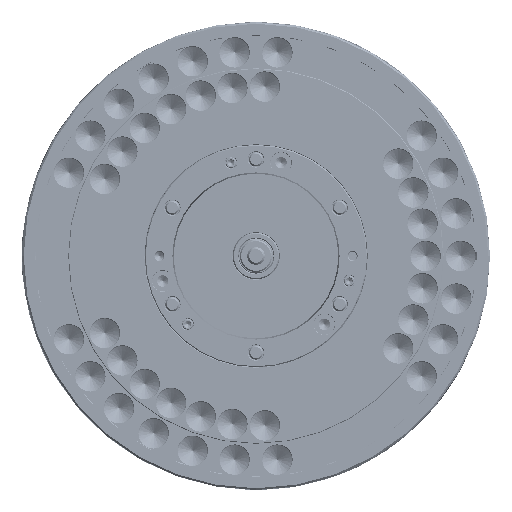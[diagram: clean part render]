
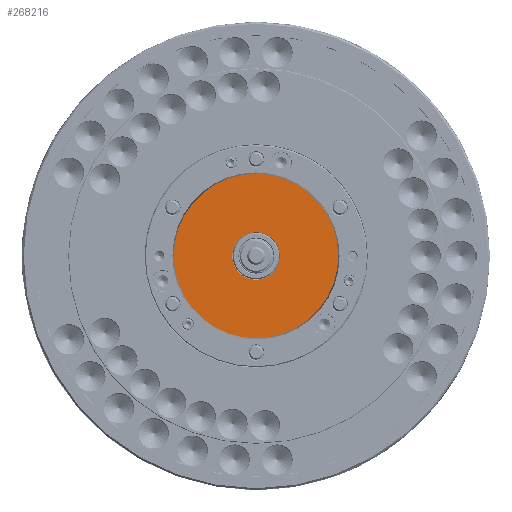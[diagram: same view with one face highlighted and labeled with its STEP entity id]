
A CAD part, left-side view. The second image highlights one B-rep face of the part: STEP entity #268216.
In plain terms, the highlighted planar face has unit normal (-1, 0, 0).
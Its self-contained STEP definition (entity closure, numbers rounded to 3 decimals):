
#3463 = VERTEX_POINT ( 'NONE', #20137 ) ;
#3970 = CARTESIAN_POINT ( 'NONE',  ( -145., 0., 0. ) ) ;
#15808 = DIRECTION ( 'NONE',  ( 0., 0., 1. ) ) ;
#19637 = DIRECTION ( 'NONE',  ( 0., 0., 1. ) ) ;
#20137 = CARTESIAN_POINT ( 'NONE',  ( -145., 0., 140.7 ) ) ;
#28764 = EDGE_CURVE ( 'NONE', #79490, #300440, #200843, .T. ) ;
#31823 = PLANE ( 'NONE',  #189696 ) ;
#35583 = DIRECTION ( 'NONE',  ( 0., 0., 1. ) ) ;
#40766 = AXIS2_PLACEMENT_3D ( 'NONE', #45808, #70819, #322844 ) ;
#45808 = CARTESIAN_POINT ( 'NONE',  ( -145., 0., 0. ) ) ;
#52349 = EDGE_CURVE ( 'NONE', #300440, #79490, #157034, .T. ) ;
#65479 = EDGE_CURVE ( 'NONE', #3463, #161581, #219838, .T. ) ;
#70819 = DIRECTION ( 'NONE',  ( -1., 0., 0. ) ) ;
#73707 = ORIENTED_EDGE ( 'NONE', *, *, #65479, .T. ) ;
#79490 = VERTEX_POINT ( 'NONE', #322406 ) ;
#87845 = CARTESIAN_POINT ( 'NONE',  ( -145., 0., -40.6 ) ) ;
#116009 = DIRECTION ( 'NONE',  ( -1., 0., 0. ) ) ;
#118175 = CARTESIAN_POINT ( 'NONE',  ( -145., 0., 0. ) ) ;
#138587 = DIRECTION ( 'NONE',  ( 0., 0., -1. ) ) ;
#157034 = CIRCLE ( 'NONE', #284905, 40.6 ) ;
#161581 = VERTEX_POINT ( 'NONE', #325756 ) ;
#163454 = EDGE_LOOP ( 'NONE', ( #225038, #175667 ) ) ;
#175667 = ORIENTED_EDGE ( 'NONE', *, *, #52349, .F. ) ;
#189696 = AXIS2_PLACEMENT_3D ( 'NONE', #233702, #265330, #138587 ) ;
#194866 = DIRECTION ( 'NONE',  ( -1., 0., 0. ) ) ;
#200843 = CIRCLE ( 'NONE', #40766, 40.6 ) ;
#219838 = CIRCLE ( 'NONE', #230547, 140.7 ) ;
#225038 = ORIENTED_EDGE ( 'NONE', *, *, #28764, .F. ) ;
#230547 = AXIS2_PLACEMENT_3D ( 'NONE', #264536, #116009, #15808 ) ;
#233702 = CARTESIAN_POINT ( 'NONE',  ( -145., 140.7, 0. ) ) ;
#235837 = DIRECTION ( 'NONE',  ( -1., 0., 0. ) ) ;
#254803 = EDGE_LOOP ( 'NONE', ( #73707, #315324 ) ) ;
#264536 = CARTESIAN_POINT ( 'NONE',  ( -145., 0., 0. ) ) ;
#265330 = DIRECTION ( 'NONE',  ( 1., 0., 0. ) ) ;
#268216 = ADVANCED_FACE ( 'NONE', ( #287108, #288734 ), #31823, .F. ) ;
#270170 = CIRCLE ( 'NONE', #312833, 140.7 ) ;
#284905 = AXIS2_PLACEMENT_3D ( 'NONE', #118175, #194866, #19637 ) ;
#287108 = FACE_BOUND ( 'NONE', #163454, .T. ) ;
#288734 = FACE_OUTER_BOUND ( 'NONE', #254803, .T. ) ;
#294760 = EDGE_CURVE ( 'NONE', #161581, #3463, #270170, .T. ) ;
#300440 = VERTEX_POINT ( 'NONE', #87845 ) ;
#312833 = AXIS2_PLACEMENT_3D ( 'NONE', #3970, #235837, #35583 ) ;
#315324 = ORIENTED_EDGE ( 'NONE', *, *, #294760, .T. ) ;
#322406 = CARTESIAN_POINT ( 'NONE',  ( -145., 0., 40.6 ) ) ;
#322844 = DIRECTION ( 'NONE',  ( 0., 0., 1. ) ) ;
#325756 = CARTESIAN_POINT ( 'NONE',  ( -145., 0., -140.7 ) ) ;
